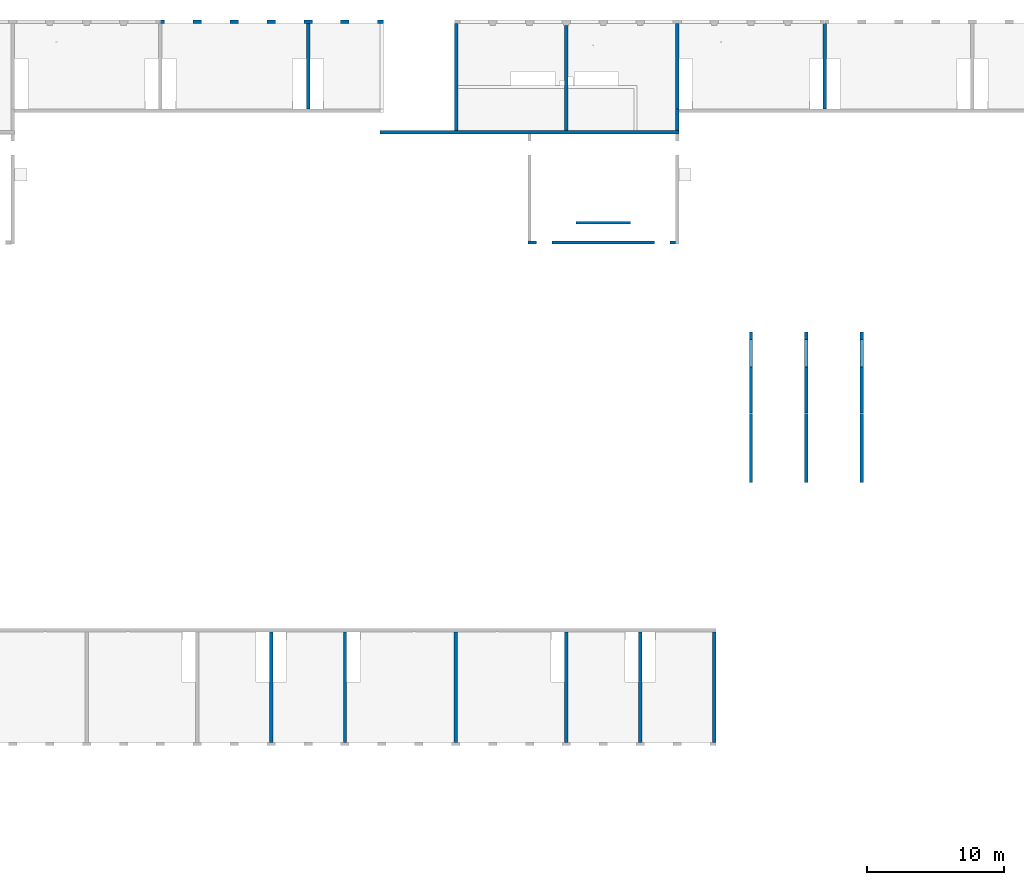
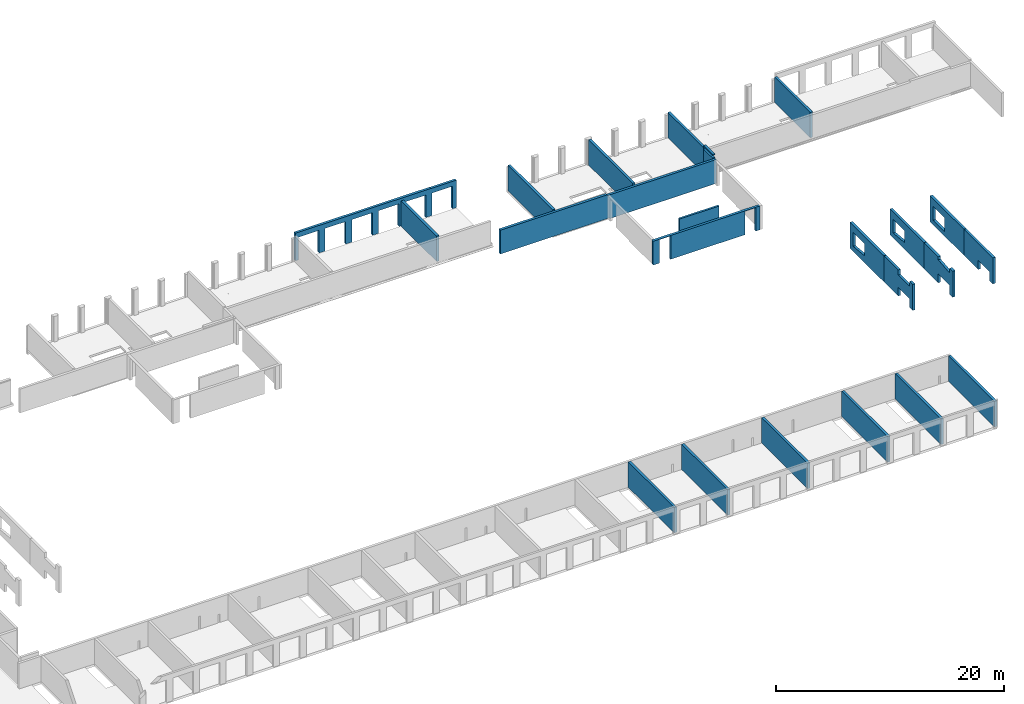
# One storey, part 7 of 12: 22 walls, 20 openings.
"""IFC2X3 building model written with IfcOpenShell, lengths in millimetres."""

import ifcopenshell
import ifcopenshell.guid

model = None  # the IFC model being written
_history = None  # IfcOwnerHistory: only IFC2X3 demands one
_inside = {}  # id of a spatial element -> (the spatial element, [elements in it])
_under = {}  # id of a project, library or spatial element -> (it, [spatial elements below it])
_declared = {}  # id of a project -> (the project, [libraries it declares])
_typed = {}  # id of a type object -> (the type object, [elements of that type])
_made_of = {}  # id of a material, layer set ... -> (it, [elements and type objects made of it])


def new_model(schema):
    """Start an empty IFC model of exactly this schema.

    Asked for "IFC4X3", IfcOpenShell would pick the latest addendum, in which some entities
    have other attributes; the version numbers below select the first issue.
    IFC2X3 requires an IfcOwnerHistory on every rooted entity: one is made here for all.
    """
    global model, _history
    if schema == "IFC4X3":
        model = ifcopenshell.file(schema_version=(4, 3, 0, 0))
    else:
        model = ifcopenshell.file(schema=schema)
    _inside.clear()
    _under.clear()
    _declared.clear()
    _typed.clear()
    _made_of.clear()
    _history = None
    if model.schema == "IFC2X3":
        org = make("IfcOrganization", Name="unknown")
        user = make(
            "IfcPersonAndOrganization",
            ThePerson=make("IfcPerson", FamilyName="unknown"),
            TheOrganization=org,
        )
        app = make(
            "IfcApplication",
            ApplicationDeveloper=org,
            Version="unknown",
            ApplicationFullName="unknown",
            ApplicationIdentifier="unknown",
        )
        _history = make(
            "IfcOwnerHistory",
            OwningUser=user,
            OwningApplication=app,
            ChangeAction="ADDED",
            CreationDate=0,
        )
    return model


def make(cls, **values):
    """One entity of the class cls with the attributes given. An attribute that is None is left unset."""
    return model.create_entity(
        cls, **{name: value for name, value in values.items() if value is not None}
    )


def entity(cls, *values):
    """Any entity or typed value of the class cls, its attributes in the order of the schema. None: left unset."""
    e = model.create_entity(cls)
    for i, value in enumerate(values):
        if value is not None:
            e[i] = value
    return e


def rooted(cls, **values):
    """An entity with a GlobalId (a new one), such as an element, a storey or a relation."""
    return make(cls, GlobalId=ifcopenshell.guid.new(), OwnerHistory=_history, **values)


def si_unit(unit_type, name, prefix=None):
    """IfcSIUnit, for example si_unit("LENGTHUNIT", "METRE", prefix="MILLI")."""
    return make("IfcSIUnit", UnitType=unit_type, Prefix=prefix, Name=name)


def converted_unit(unit_type, name, factor, base, dimensions=None, offset=None):
    """IfcConversionBasedUnit, such as the inch: factor (a typed value) times the base unit."""
    return make(
        "IfcConversionBasedUnit"
        if offset is None
        else "IfcConversionBasedUnitWithOffset",
        ConversionOffset=offset,
        Dimensions=None
        if dimensions is None
        else entity("IfcDimensionalExponents", *dimensions),
        UnitType=unit_type,
        Name=name,
        ConversionFactor=make(
            "IfcMeasureWithUnit", ValueComponent=factor, UnitComponent=base
        ),
    )


def derived_unit(unit_type, elements):
    """IfcDerivedUnit: a product of units, each with its exponent."""
    return make(
        "IfcDerivedUnit",
        Elements=[
            make("IfcDerivedUnitElement", Unit=unit, Exponent=power)
            for unit, power in elements
        ],
        UnitType=unit_type,
    )


def assignment(units):
    """IfcUnitAssignment: the units of a project."""
    return None if units is None else make("IfcUnitAssignment", Units=units)


def point(xyz):
    """IfcCartesianPoint."""
    return None if xyz is None else make("IfcCartesianPoint", Coordinates=xyz)


def direction(xyz):
    """IfcDirection."""
    return None if xyz is None else make("IfcDirection", DirectionRatios=xyz)


def frame(location, z_axis=None, x_axis=None):
    """IfcAxis2Placement3D, a coordinate frame: its origin and axes. An axis left out is left unset."""
    return make(
        "IfcAxis2Placement3D",
        Location=point(location),
        Axis=direction(z_axis),
        RefDirection=direction(x_axis),
    )


def frame_2d(location, x_axis=None):
    """IfcAxis2Placement2D, a coordinate frame in the plane: its origin and x axis."""
    return make(
        "IfcAxis2Placement2D", Location=point(location), RefDirection=direction(x_axis)
    )


def origin():
    """The frame at (0, 0, 0) with its axes left unset."""
    return frame((0.0, 0.0, 0.0))


def place(relative_to, where):
    """IfcLocalPlacement: puts the frame where relative to a parent placement (None: the world)."""
    return make(
        "IfcLocalPlacement", PlacementRelTo=relative_to, RelativePlacement=where
    )


def context(
    kind, dimensions, precision=None, world=None, true_north=None, identifier=None
):
    """IfcGeometricRepresentationContext, for example the 3D "Model" context."""
    return make(
        "IfcGeometricRepresentationContext",
        ContextIdentifier=identifier,
        ContextType=kind,
        CoordinateSpaceDimension=dimensions,
        Precision=precision,
        WorldCoordinateSystem=world,
        TrueNorth=true_north,
    )


def subcontext(parent, identifier, kind, view, scale=None):
    """IfcGeometricRepresentationSubContext, for example "Body" below "Model"."""
    return make(
        "IfcGeometricRepresentationSubContext",
        ContextIdentifier=identifier,
        ContextType=kind,
        ParentContext=parent,
        TargetScale=scale,
        TargetView=view,
    )


def project(units=None, contexts=None):
    """IfcProject with its units and contexts."""
    return rooted(
        "IfcProject",
        Name="project",
        RepresentationContexts=contexts,
        UnitsInContext=assignment(units),
    )


def spatial(cls, under=None, at=None, **own):
    """A site, building, storey or space (cls), placed at a placement, below another one or the project."""
    s = rooted(cls, ObjectPlacement=at, **own)
    if under is not None:
        _under.setdefault(under.id(), (under, []))[1].append(s)
    return s


def polyline(points):
    """IfcPolyline through the points."""
    return make("IfcPolyline", Points=[point(p) for p in points])


def profile(cls, at=None, kind="AREA", **sizes):
    """A parametric profile (cls). Its sizes go by their IFC names, for example OverallWidth=200.0."""
    return make(cls, ProfileType=kind, Position=at, **sizes)


def rectangle(**sizes):
    """IfcRectangleProfileDef."""
    return profile("IfcRectangleProfileDef", **sizes)


def outline(outer, holes=None, kind="AREA"):
    """IfcArbitraryClosedProfileDef: a profile drawn as a closed curve; with holes, ...WithVoids."""
    if holes is None:
        return make("IfcArbitraryClosedProfileDef", ProfileType=kind, OuterCurve=outer)
    return make(
        "IfcArbitraryProfileDefWithVoids",
        ProfileType=kind,
        OuterCurve=outer,
        InnerCurves=holes,
    )


def extrude(swept, where, along, depth):
    """IfcExtrudedAreaSolid: the profile swept, set in the frame where, extruded along a direction by depth."""
    return make(
        "IfcExtrudedAreaSolid",
        SweptArea=swept,
        Position=where,
        ExtrudedDirection=direction(along),
        Depth=depth,
    )


def clip(a, b, op="DIFFERENCE"):
    """IfcBooleanClippingResult: the solid a cut by the half space b."""
    return make(
        "IfcBooleanClippingResult", Operator=op, FirstOperand=a, SecondOperand=b
    )


def bounded_halfspace(plane, agree, where, boundary):
    """IfcPolygonalBoundedHalfSpace: a half space limited to a polygon's prism."""
    return make(
        "IfcPolygonalBoundedHalfSpace",
        BaseSurface=make("IfcPlane", Position=plane),
        AgreementFlag=agree,
        Position=where,
        PolygonalBoundary=boundary,
    )


def shape(context_of_items, identifier, shape_type, items):
    """IfcShapeRepresentation: the items that make up one representation, for example the "Body"."""
    return make(
        "IfcShapeRepresentation",
        ContextOfItems=context_of_items,
        RepresentationIdentifier=identifier,
        RepresentationType=shape_type,
        Items=items,
    )


def material(Name=None, Category=None):
    """IfcMaterial."""
    return make("IfcMaterial", Name=Name, Category=Category)


def layer(
    of_material, thickness, ventilated=None, Name=None, Category=None, Priority=None
):
    """IfcMaterialLayer: one layer of a wall or slab, of a material (None: an air gap)."""
    return make(
        "IfcMaterialLayer",
        Material=of_material,
        LayerThickness=thickness,
        IsVentilated=ventilated,
        Name=Name,
        Category=Category,
        Priority=Priority,
    )


def layer_set(layers, Name=None):
    """IfcMaterialLayerSet."""
    return make("IfcMaterialLayerSet", MaterialLayers=layers, LayerSetName=Name)


def layer_usage(for_layer_set, set_direction, sense, offset, extent=None):
    """IfcMaterialLayerSetUsage: how a layer set lies in its element."""
    return make(
        "IfcMaterialLayerSetUsage",
        ForLayerSet=for_layer_set,
        LayerSetDirection=set_direction,
        DirectionSense=sense,
        OffsetFromReferenceLine=offset,
        ReferenceExtent=extent,
    )


def made_of(thing, what):
    """Note that an element or type object is made of a material, layer set ...; save() writes the relation."""
    if what is not None:
        _made_of.setdefault(what.id(), (what, []))[1].append(thing)
    return thing


def type_object(cls, material=None, **own):
    """A type object (cls), such as IfcWallType, which elements share."""
    return made_of(rooted(cls, **own), material)


def element(
    cls,
    number,
    at=None,
    inside=None,
    cuts=None,
    type_object=None,
    material=None,
    context=None,
    identifier="Body",
    shape_type=None,
    held_by="IfcProductDefinitionShape",
    body=None,
    shapes=None,
    **own,
):
    """One element of the class cls, such as IfcWall. Its Tag is "e" and its number.

    at: its placement. inside: the storey or other place that contains it. cuts: it is an
    opening in that element (IfcRelVoidsElement). A single representation is given by context,
    identifier, shape_type and body (its items); several are given by shapes. held_by: the class
    of the entity that holds the representations. save() writes the other relations.
    """
    e = rooted(cls, Tag="e%d" % number, ObjectPlacement=at, **own)
    if body is not None:
        shapes = [shape(context, identifier, shape_type, body)]
    if shapes is not None:
        e.Representation = make(held_by, Representations=shapes)
    if inside is not None:
        _inside.setdefault(inside.id(), (inside, []))[1].append(e)
    if cuts is not None:
        rooted(
            "IfcRelVoidsElement", RelatingBuildingElement=cuts, RelatedOpeningElement=e
        )
    if type_object is not None:
        _typed.setdefault(type_object.id(), (type_object, []))[1].append(e)
    return made_of(e, material)


def aggregate(whole, parts):
    """IfcRelAggregates: a whole, such as a stair, and the parts it consists of."""
    return rooted("IfcRelAggregates", RelatingObject=whole, RelatedObjects=parts)


def save(model, path):
    """Write the relations noted so far, then the file.

    IfcRelAggregates (storeys below a building ...), IfcRelContainedInSpatialStructure (elements
    in a storey), IfcRelDefinesByType, IfcRelAssociatesMaterial and IfcRelDeclares: one each for
    every whole, place, type object, material and project.
    """
    for whole, parts in _under.values():
        aggregate(whole, parts)
    for where, things in _inside.values():
        rooted(
            "IfcRelContainedInSpatialStructure",
            RelatedElements=things,
            RelatingStructure=where,
        )
    for kind, things in _typed.values():
        rooted("IfcRelDefinesByType", RelatedObjects=things, RelatingType=kind)
    for what, things in _made_of.values():
        rooted("IfcRelAssociatesMaterial", RelatedObjects=things, RelatingMaterial=what)
    for by, libraries in _declared.values():
        rooted("IfcRelDeclares", RelatingContext=by, RelatedDefinitions=libraries)
    model.write(path)


model = new_model("IFC2X3")

# Units and contexts
model_context = context("Model", 3, precision=0.01, world=origin(), true_north=direction((6.12303176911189e-17, 1.0)))
body_context = subcontext(model_context, "Body", "Model", "MODEL_VIEW")
ifc_project = project(units=[si_unit("LENGTHUNIT", "METRE", prefix="MILLI"), si_unit("AREAUNIT", "SQUARE_METRE"), si_unit("VOLUMEUNIT", "CUBIC_METRE"), converted_unit("PLANEANGLEUNIT", "DEGREE", entity("IfcRatioMeasure", 0.0174532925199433), si_unit("PLANEANGLEUNIT", "RADIAN"), dimensions=[0, 0, 0, 0, 0, 0, 0]), si_unit("MASSUNIT", "GRAM", prefix="KILO"), derived_unit("MASSDENSITYUNIT", [(si_unit("MASSUNIT", "GRAM", prefix="KILO"), 1), (si_unit("LENGTHUNIT", "METRE"), -3)]), si_unit("TIMEUNIT", "SECOND"), si_unit("FREQUENCYUNIT", "HERTZ"), si_unit("THERMODYNAMICTEMPERATUREUNIT", "DEGREE_CELSIUS"), derived_unit("THERMALTRANSMITTANCEUNIT", [(si_unit("MASSUNIT", "GRAM", prefix="KILO"), 1), (si_unit("THERMODYNAMICTEMPERATUREUNIT", "KELVIN"), -1), (si_unit("TIMEUNIT", "SECOND"), -3)]), derived_unit("VOLUMETRICFLOWRATEUNIT", [(si_unit("LENGTHUNIT", "METRE"), 3), (si_unit("TIMEUNIT", "SECOND"), -1)]), si_unit("ELECTRICCURRENTUNIT", "AMPERE"), si_unit("ELECTRICVOLTAGEUNIT", "VOLT"), si_unit("POWERUNIT", "WATT"), si_unit("FORCEUNIT", "NEWTON", prefix="KILO"), si_unit("ILLUMINANCEUNIT", "LUX"), si_unit("LUMINOUSFLUXUNIT", "LUMEN"), si_unit("LUMINOUSINTENSITYUNIT", "CANDELA"), derived_unit("USERDEFINED", [(si_unit("MASSUNIT", "GRAM", prefix="KILO"), -1), (si_unit("LENGTHUNIT", "METRE"), -2), (si_unit("TIMEUNIT", "SECOND"), 3), (si_unit("LUMINOUSFLUXUNIT", "LUMEN"), 1)]), derived_unit("LINEARVELOCITYUNIT", [(si_unit("LENGTHUNIT", "METRE"), 1), (si_unit("TIMEUNIT", "SECOND"), -1)]), si_unit("PRESSUREUNIT", "PASCAL"), derived_unit("USERDEFINED", [(si_unit("LENGTHUNIT", "METRE"), -2), (si_unit("MASSUNIT", "GRAM", prefix="KILO"), 1), (si_unit("TIMEUNIT", "SECOND"), -2)])], contexts=[model_context])

# Site, building, storey
site_placement = place(None, origin())
site = spatial("IfcSite", under=ifc_project, at=site_placement, Name="Default", CompositionType="ELEMENT")
building_placement = place(site_placement, origin())
building = spatial("IfcBuilding", under=site, at=building_placement, Name="niet gebruiken", CompositionType="ELEMENT")
storey_placement = place(building_placement, frame((0.0, 0.0, 6660.0)))
storey = spatial("IfcBuildingStorey", under=building, at=storey_placement, Name="02 tweede verdieping", CompositionType="ELEMENT", Elevation=6660.00000000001)

# Walls
ifc_material_1 = material(Name="NLRS_f2_beton ihwg")
ifc_layer_1 = layer(ifc_material_1, 250.0)
ifc_layer_set_1 = layer_set([ifc_layer_1], Name="Basic Wall:NLRS_22.21_WA_beton ihwg d=250_gen")
ifc_layer_usage_1 = layer_usage(ifc_layer_set_1, "AXIS2", "NEGATIVE", 125.0)
wall_type_1 = type_object("IfcWallType", Name="Basic Wall:NLRS_22.21_WA_beton ihwg d=250_gen", PredefinedType="STANDARD", material=ifc_layer_set_1)
wall_1_placement = place(storey_placement, frame((67500.0, 8496.0, -90.0), z_axis=(0.0, 0.0, 1.0), x_axis=(0.0, -1.0, 0.0)))
element("IfcWallStandardCase", 1, at=wall_1_placement, inside=storey, type_object=wall_type_1, material=ifc_layer_usage_1, Name="Basic Wall:NLRS_22.21_WA_beton ihwg d=250_gen", ObjectType="Basic Wall:NLRS_22.21_WA_beton ihwg d=250_gen", context=body_context, shape_type="SweptSolid", body=[
    extrude(rectangle(XDim=8075.99999999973, YDim=249.999999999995, at=frame_2d((4037.99999999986, 0.0), x_axis=(-1.0, 0.0))), origin(), (0.0, 0.0, 1.0), 2720.00000000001),
])
ifc_layer_usage_2 = layer_usage(ifc_layer_set_1, "AXIS2", "NEGATIVE", 125.0)
wall_2_placement = place(storey_placement, frame((72900.0, 8496.0, -90.0), z_axis=(0.0, 0.0, 1.0), x_axis=(0.0, -1.0, 0.0)))
element("IfcWallStandardCase", 2, at=wall_2_placement, inside=storey, type_object=wall_type_1, material=ifc_layer_usage_2, Name="Basic Wall:NLRS_22.21_WA_beton ihwg d=250_gen", ObjectType="Basic Wall:NLRS_22.21_WA_beton ihwg d=250_gen", context=body_context, shape_type="SweptSolid", body=[
    extrude(rectangle(XDim=8075.99999999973, YDim=249.999999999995, at=frame_2d((4037.99999999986, 0.0), x_axis=(-1.0, 0.0))), origin(), (0.0, 0.0, 1.0), 2720.00000000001),
])
ifc_layer_usage_3 = layer_usage(ifc_layer_set_1, "AXIS2", "NEGATIVE", 125.0)
wall_3_placement = place(storey_placement, frame((81000.0, 8496.0, -90.0), z_axis=(0.0, 0.0, 1.0), x_axis=(0.0, -1.0, 0.0)))
element("IfcWallStandardCase", 3, at=wall_3_placement, inside=storey, type_object=wall_type_1, material=ifc_layer_usage_3, Name="Basic Wall:NLRS_22.21_WA_beton ihwg d=250_gen", ObjectType="Basic Wall:NLRS_22.21_WA_beton ihwg d=250_gen", context=body_context, shape_type="SweptSolid", body=[
    extrude(rectangle(XDim=8075.99999999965, YDim=250.000000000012, at=frame_2d((4037.99999999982, 0.0), x_axis=(-1.0, 0.0))), origin(), (0.0, 0.0, 1.0), 2720.00000000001),
])
ifc_layer_usage_4 = layer_usage(ifc_layer_set_1, "AXIS2", "NEGATIVE", 125.0)
wall_4_placement = place(storey_placement, frame((89100.0, 8496.0, -90.0), z_axis=(0.0, 0.0, 1.0), x_axis=(0.0, -1.0, 0.0)))
element("IfcWallStandardCase", 4, at=wall_4_placement, inside=storey, type_object=wall_type_1, material=ifc_layer_usage_4, Name="Basic Wall:NLRS_22.21_WA_beton ihwg d=250_gen", ObjectType="Basic Wall:NLRS_22.21_WA_beton ihwg d=250_gen", context=body_context, shape_type="SweptSolid", body=[
    extrude(rectangle(XDim=8075.99999999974, YDim=250.000000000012, at=frame_2d((4037.99999999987, 0.0), x_axis=(-1.0, 0.0))), origin(), (0.0, 0.0, 1.0), 2720.00000000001),
])
ifc_layer_usage_5 = layer_usage(ifc_layer_set_1, "AXIS2", "NEGATIVE", 125.0)
wall_5_placement = place(storey_placement, frame((94500.0, 8496.0, -90.0), z_axis=(0.0, 0.0, 1.0), x_axis=(0.0, -1.0, 0.0)))
element("IfcWallStandardCase", 5, at=wall_5_placement, inside=storey, type_object=wall_type_1, material=ifc_layer_usage_5, Name="Basic Wall:NLRS_22.21_WA_beton ihwg d=250_gen", ObjectType="Basic Wall:NLRS_22.21_WA_beton ihwg d=250_gen", context=body_context, shape_type="SweptSolid", body=[
    extrude(rectangle(XDim=8075.99999999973, YDim=250.000000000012, at=frame_2d((4037.99999999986, 0.0), x_axis=(-1.0, 0.0))), origin(), (0.0, 0.0, 1.0), 2720.00000000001),
])
ifc_layer_usage_6 = layer_usage(ifc_layer_set_1, "AXIS2", "NEGATIVE", 125.0)
wall_6_placement = place(storey_placement, frame((99900.0, 8496.0, -90.0), z_axis=(0.0, 0.0, 1.0), x_axis=(0.0, -1.0, 0.0)))
element("IfcWallStandardCase", 6, at=wall_6_placement, inside=storey, type_object=wall_type_1, material=ifc_layer_usage_6, Name="Basic Wall:NLRS_22.21_WA_beton ihwg d=250_gen", ObjectType="Basic Wall:NLRS_22.21_WA_beton ihwg d=250_gen", context=body_context, shape_type="SweptSolid", body=[
    extrude(rectangle(XDim=8075.99999999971, YDim=250.000000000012, at=frame_2d((4037.99999999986, 0.0), x_axis=(-1.0, 0.0))), origin(), (0.0, 0.0, 1.0), 2720.00000000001),
])
ifc_layer_usage_7 = layer_usage(ifc_layer_set_1, "AXIS2", "NEGATIVE", 125.0)
wall_7_placement = place(storey_placement, frame((70200.0, 46746.0, -90.0), z_axis=(0.0, 0.0, 1.0), x_axis=(0.0, 1.0, 0.0)))
element("IfcWallStandardCase", 7, at=wall_7_placement, inside=storey, type_object=wall_type_1, material=ifc_layer_usage_7, Name="Basic Wall:NLRS_22.21_WA_beton ihwg d=250_gen", ObjectType="Basic Wall:NLRS_22.21_WA_beton ihwg d=250_gen", context=body_context, shape_type="SweptSolid", body=[
    extrude(rectangle(XDim=6239.99999999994, YDim=249.999999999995, at=frame_2d((3119.99999999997, 1.06581410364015e-12), x_axis=(-1.0, 0.0))), origin(), (0.0, 0.0, 1.0), 2720.00000000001),
])
ifc_layer_usage_8 = layer_usage(ifc_layer_set_1, "AXIS2", "NEGATIVE", 125.0)
wall_8_placement = place(storey_placement, frame((108000.0, 46746.0, -90.0), z_axis=(0.0, 0.0, 1.0), x_axis=(0.0, 1.0, 0.0)))
element("IfcWallStandardCase", 8, at=wall_8_placement, inside=storey, type_object=wall_type_1, material=ifc_layer_usage_8, Name="Basic Wall:NLRS_22.21_WA_beton ihwg d=250_gen", ObjectType="Basic Wall:NLRS_22.21_WA_beton ihwg d=250_gen", context=body_context, shape_type="SweptSolid", body=[
    extrude(rectangle(XDim=6239.99999999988, YDim=250.000000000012, at=frame_2d((3119.99999999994, -3.26849658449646e-12), x_axis=(-1.0, 0.0))), origin(), (0.0, 0.0, 1.0), 2720.00000000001),
])
ifc_layer_usage_9 = layer_usage(ifc_layer_set_1, "AXIS2", "NEGATIVE", 125.0)
wall_9_placement = place(storey_placement, frame((89100.0, 45156.0, -90.0), z_axis=(0.0, 0.0, 1.0), x_axis=(0.0, 1.0, 0.0)))
element("IfcWallStandardCase", 9, at=wall_9_placement, inside=storey, type_object=wall_type_1, material=ifc_layer_usage_9, Name="Basic Wall:NLRS_22.21_WA_beton ihwg d=250_gen", ObjectType="Basic Wall:NLRS_22.21_WA_beton ihwg d=250_gen", context=body_context, shape_type="SweptSolid", body=[
    extrude(rectangle(XDim=7690.00000000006, YDim=250.000000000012, at=frame_2d((3845.00000000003, -2.01794136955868e-12), x_axis=(-1.0, 0.0))), origin(), (0.0, 0.0, 1.0), 2720.00000000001),
])
ifc_layer_usage_10 = layer_usage(ifc_layer_set_1, "AXIS2", "NEGATIVE", 125.0)
wall_10_placement = place(storey_placement, frame((81025.0, 45156.0, -90.0), z_axis=(0.0, 0.0, 1.0), x_axis=(0.0, 1.0, 0.0)))
element("IfcWallStandardCase", 10, at=wall_10_placement, inside=storey, type_object=wall_type_1, material=ifc_layer_usage_10, Name="Basic Wall:NLRS_22.21_WA_beton ihwg d=250_gen", ObjectType="Basic Wall:NLRS_22.21_WA_beton ihwg d=250_gen", context=body_context, shape_type="SweptSolid", body=[
    extrude(rectangle(XDim=7849.99999999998, YDim=250.000000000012, at=frame_2d((3924.99999999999, -1.86872739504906e-12), x_axis=(-1.0, 0.0))), origin(), (0.0, 0.0, 1.0), 2720.00000000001),
])

# Wall, openings
ifc_layer_usage_11 = layer_usage(ifc_layer_set_1, "AXIS2", "NEGATIVE", 125.0)
wall_11_placement = place(storey_placement, frame((97325.0, 45031.0, -140.0), z_axis=(0.0, 0.0, 1.0), x_axis=(-1.0, 0.0, 0.0)))
wall_11 = element("IfcWallStandardCase", 11, at=wall_11_placement, inside=storey, type_object=wall_type_1, material=ifc_layer_usage_11, Name="Basic Wall:NLRS_22.21_WA_beton ihwg d=250_gen", ObjectType="Basic Wall:NLRS_22.21_WA_beton ihwg d=250_gen", context=body_context, shape_type="Clipping", body=[
    clip(clip(clip(clip(extrude(rectangle(XDim=21874.9999999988, YDim=249.999999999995, at=frame_2d((10937.4999999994, -3.90798504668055e-13), x_axis=(-1.0, 0.0))), origin(), (0.0, 0.0, 1.0), 2640.00000000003), bounded_halfspace(frame((10800.0, 125.0, 90.0), z_axis=(-1.0, 0.0, 0.0), x_axis=(0.0, 0.0, 1.0)), True, frame((10800.0, 125.0, 90.0), z_axis=(-1.0, 0.0, 0.0), x_axis=(0.0, 0.0, 1.0)), polyline([(0.0, 0.0), (-90.0, 0.0), (-90.0, -250.0), (0.0, -250.0), (0.0, 0.0)]))), bounded_halfspace(frame((21875.0, -125.0, 2640.0), z_axis=(0.0, 0.0, -1.0), x_axis=(1.0, 0.0, 0.0)), True, frame((21875.0, -125.0, 2640.0), z_axis=(0.0, 0.0, -1.0), x_axis=(1.0, 0.0, 0.0)), polyline([(0.0, 0.0), (-20.0, 0.0), (-10824.999849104, 0.0), (-10824.999849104, -250.0), (0.0, -250.0), (0.0, 0.0)]))), bounded_halfspace(frame((11050.0001508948, -125.0, 2550.0), z_axis=(0.0, 0.0, -1.0), x_axis=(0.0, -1.0, 0.0)), True, frame((11050.0001508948, -125.0, 2550.0), z_axis=(0.0, 0.0, -1.0), x_axis=(0.0, -1.0, 0.0)), polyline([(0.0, 0.0), (0.0, 11050.0001508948), (-250.0, 11050.0001508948), (-250.0, 10800.0001508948), (-250.0, 250.000150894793), (-250.0, 0.0), (0.0, 0.0)]))), bounded_halfspace(frame((11050.0001508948, 125.0, 2550.0), z_axis=(1.0, 0.0, 0.0), x_axis=(0.0, 0.0, 1.0)), True, frame((11050.0001508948, 125.0, 2550.0), z_axis=(1.0, 0.0, 0.0), x_axis=(0.0, 0.0, 1.0)), polyline([(0.0, 0.0), (90.0, 0.0), (90.0, 250.0), (0.0, 250.0), (0.0, 0.0)]))),
])
opening_1_placement = place(wall_11_placement, origin())
element("IfcOpeningElement", 12, at=opening_1_placement, cuts=wall_11, Name="Basic Wall:NLRS_22.21_WA_beton ihwg d=250_gen", ObjectType="Opening", context=body_context, shape_type="SweptSolid", body=[
    extrude(rectangle(XDim=90.0000000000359, YDim=10824.9999999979, at=frame_2d((-4.09272615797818e-12, 0.0), x_axis=(0.0, 1.0))), frame((16462.4999999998, 125.0, 45.0), z_axis=(0.0, -1.0, 0.0), x_axis=(1.0, 0.0, 0.0)), (0.0, 0.0, 1.0), 250.0),
])
opening_2_placement = place(wall_11_placement, origin())
element("IfcOpeningElement", 13, at=opening_2_placement, cuts=wall_11, Name="Basic Wall:NLRS_22.21_WA_beton ihwg d=250_gen", ObjectType="Opening", context=body_context, shape_type="SweptSolid", body=[
    extrude(rectangle(XDim=90.0000000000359, YDim=10925.0000000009, at=frame_2d((-8.64019966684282e-12, 0.0), x_axis=(0.0, 1.0))), frame((5587.50000000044, 125.0, 2845.0), z_axis=(0.0, -1.0, 0.0), x_axis=(-1.0, 0.0, 0.0)), (0.0, 0.0, 1.0), 250.0),
])

ifc_layer_usage_12 = layer_usage(ifc_layer_set_1, "AXIS2", "NEGATIVE", 125.0)
wall_12_placement = place(storey_placement, frame((97075.0, 36981.0, -140.0), z_axis=(0.0, 0.0, 1.0), x_axis=(-1.0, 0.0, 0.0)))
wall_12 = element("IfcWallStandardCase", 14, at=wall_12_placement, inside=storey, type_object=wall_type_1, material=ifc_layer_usage_12, Name="Basic Wall:NLRS_22.21_WA_beton ihwg d=250_gen", ObjectType="Basic Wall:NLRS_22.21_WA_beton ihwg d=250_gen", context=body_context, shape_type="Clipping", body=[
    clip(extrude(rectangle(XDim=10800.0, YDim=250.000000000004, at=frame_2d((5399.99999999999, -5.47117906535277e-13), x_axis=(-1.0, 0.0))), origin(), (0.0, 0.0, 1.0), 2549.99999999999), bounded_halfspace(frame((0.0, -125.0, 2550.0), z_axis=(0.0, 0.0, -1.0), x_axis=(0.0, -1.0, 0.0)), True, frame((0.0, -125.0, 2550.0), z_axis=(0.0, 0.0, -1.0), x_axis=(0.0, -1.0, 0.0)), polyline([(0.0, 0.0), (-250.0, 0.0), (-250.0, -10800.0), (0.0, -10800.0), (0.0, -10550.0), (0.0, -10250.0), (0.0, -7175.00021677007), (0.0, -7150.00021677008), (0.0, -3375.00021676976), (0.0, -3350.00021676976), (0.0, 0.0)]))),
])
opening_3_placement = place(wall_12_placement, origin())
element("IfcOpeningElement", 15, at=opening_3_placement, cuts=wall_12, Name="Basic Wall:NLRS_22.21_WA_beton ihwg d=250_gen", ObjectType="Opening", context=body_context, shape_type="SweptSolid", body=[
    extrude(rectangle(XDim=2495.0, YDim=1130.0, at=frame_2d((5.6843418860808e-13, -8.64019966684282e-12), x_axis=(1.0, 0.0))), frame((9585.0, -1649.0, 1247.5), z_axis=(0.0, 1.0, 0.0), x_axis=(0.0, 0.0, 1.0)), (0.0, 0.0, 1.0), 3048.0),
])
opening_4_placement = place(wall_12_placement, origin())
element("IfcOpeningElement", 16, at=opening_4_placement, cuts=wall_12, Name="Basic Wall:NLRS_22.21_WA_beton ihwg d=250_gen", ObjectType="Opening", context=body_context, shape_type="SweptSolid", body=[
    extrude(rectangle(XDim=2495.0, YDim=1130.0, at=frame_2d((5.6843418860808e-13, -8.64019966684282e-12), x_axis=(1.0, 0.0))), frame((965.0, -1649.0, 1247.5), z_axis=(0.0, 1.0, 0.0), x_axis=(0.0, 0.0, 1.0)), (0.0, 0.0, 1.0), 3048.0),
])

# Wall
ifc_layer_usage_13 = layer_usage(ifc_layer_set_1, "AXIS2", "NEGATIVE", 125.0)
wall_13_placement = place(storey_placement, frame((97200.0, 46746.0, -90.0), z_axis=(0.0, 0.0, 1.0), x_axis=(0.0, 1.0, 0.0)))
element("IfcWallStandardCase", 17, at=wall_13_placement, inside=storey, type_object=wall_type_1, material=ifc_layer_usage_13, Name="Basic Wall:NLRS_22.21_WA_beton ihwg d=250_gen", ObjectType="Basic Wall:NLRS_22.21_WA_beton ihwg d=250_gen", context=body_context, shape_type="Clipping", body=[
    clip(extrude(rectangle(XDim=6259.99999999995, YDim=250.000000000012, at=frame_2d((3129.99999999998, -3.24718030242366e-12), x_axis=(-1.0, 0.0))), origin(), (0.0, 0.0, 1.0), 2720.00000000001), bounded_halfspace(frame((3680.0, -125.0, 2720.0), z_axis=(0.0, 0.0, -1.0), x_axis=(-1.0, 0.0, 0.0)), True, frame((3680.0, -125.0, 2720.0), z_axis=(0.0, 0.0, -1.0), x_axis=(-1.0, 0.0, 0.0)), polyline([(0.0, 0.0), (3680.0, 0.0), (3680.0, 230.0), (3680.0, 250.0), (-2580.0, 250.0), (-2580.0, 230.0), (-2580.0, 125.0), (-2580.0, 20.0), (-2580.0, 0.0), (0.0, 0.0)]))),
])

# Wall, opening
ifc_layer_usage_14 = layer_usage(ifc_layer_set_1, "AXIS2", "NEGATIVE", 125.0)
wall_14_placement = place(storey_placement, frame((97200.0, 45156.0, -90.0), z_axis=(0.0, 0.0, 1.0), x_axis=(0.0, 1.0, 0.0)))
wall_14 = element("IfcWallStandardCase", 18, at=wall_14_placement, inside=storey, type_object=wall_type_1, material=ifc_layer_usage_14, Name="Basic Wall:NLRS_22.21_WA_beton ihwg d=250_gen", ObjectType="Basic Wall:NLRS_22.21_WA_beton ihwg d=250_gen", context=body_context, shape_type="SweptSolid", body=[
    extrude(rectangle(XDim=1590.00000000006, YDim=250.000000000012, at=frame_2d((795.000000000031, 1.37845290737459e-12), x_axis=(-1.0, 0.0))), origin(), (0.0, 0.0, 1.0), 2970.00000000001),
])
opening_5_placement = place(storey_placement, frame((97200.0, 45156.0, -90.0), z_axis=(0.0, 0.0, 1.0), x_axis=(0.0, 1.0, 0.0)))
element("IfcOpeningElement", 19, at=opening_5_placement, cuts=wall_14, Name="Basic Wall:NLRS_22.21_WA_beton ihwg d=250_gen:1", ObjectType="Opening", context=body_context, shape_type="SweptSolid", body=[
    extrude(rectangle(XDim=1590.00000000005, YDim=249.999999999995, at=frame_2d((114.999999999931, 38.3333333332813), x_axis=(1.0, 0.0))), frame((680.0, -38.33333333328, 2590.0)), (0.0, 0.0, 1.0), 249.999999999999),
])

# Wall, openings
ifc_material_2 = material(Name="NLRS_f2_beton prefab")
ifc_layer_2 = layer(ifc_material_2, 250.0)
ifc_layer_set_2 = layer_set([ifc_layer_2], Name="Basic Wall:NLRS_21.21_WA_beton prefab d=250_gen")
ifc_layer_usage_15 = layer_usage(ifc_layer_set_2, "AXIS2", "NEGATIVE", 125.0)
wall_type_2 = type_object("IfcWallType", Name="Basic Wall:NLRS_21.21_WA_beton prefab d=250_gen", PredefinedType="STANDARD", material=ifc_layer_set_2)
wall_15_placement = place(storey_placement, frame((59410.0, 53131.0, -70.0)))
wall_15 = element("IfcWallStandardCase", 20, at=wall_15_placement, inside=storey, type_object=wall_type_2, material=ifc_layer_usage_15, Name="Basic Wall:NLRS_21.21_WA_beton prefab d=250_gen", ObjectType="Basic Wall:NLRS_21.21_WA_beton prefab d=250_gen", context=body_context, shape_type="SweptSolid", body=[
    extrude(rectangle(XDim=16290.0000000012, YDim=249.999999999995, at=frame_2d((8145.00000000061, 6.89226453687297e-13), x_axis=(-1.0, 0.0))), origin(), (0.0, 0.0, 1.0), 2950.00000000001),
])
opening_6_placement = place(wall_15_placement, origin())
element("IfcOpeningElement", 21, at=opening_6_placement, cuts=wall_15, Name="Basic Wall:NLRS_21.21_WA_beton prefab d=250_gen", ObjectType="Opening", context=body_context, shape_type="SweptSolid", body=[
    extrude(rectangle(XDim=2440.0, YDim=2080.0, at=frame_2d((0.0, 4.32009983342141e-12), x_axis=(1.0, 0.0))), frame((1340.00096011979, -1649.0, 1200.0), z_axis=(0.0, 1.0, 0.0), x_axis=(0.0, 0.0, 1.0)), (0.0, 0.0, 1.0), 3048.0),
])
opening_7_placement = place(wall_15_placement, origin())
element("IfcOpeningElement", 22, at=opening_7_placement, cuts=wall_15, Name="Basic Wall:NLRS_21.21_WA_beton prefab d=250_gen", ObjectType="Opening", context=body_context, shape_type="SweptSolid", body=[
    extrude(rectangle(XDim=2440.0, YDim=2080.0, at=frame_2d((0.0, -4.32009983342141e-12), x_axis=(1.0, 0.0))), frame((4040.00096011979, -1649.0, 1200.0), z_axis=(0.0, 1.0, 0.0), x_axis=(0.0, 0.0, 1.0)), (0.0, 0.0, 1.0), 3048.0),
])
opening_8_placement = place(wall_15_placement, origin())
element("IfcOpeningElement", 23, at=opening_8_placement, cuts=wall_15, Name="Basic Wall:NLRS_21.21_WA_beton prefab d=250_gen", ObjectType="Opening", context=body_context, shape_type="SweptSolid", body=[
    extrude(rectangle(XDim=2440.0, YDim=2080.0, at=frame_2d((0.0, -4.32009983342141e-12), x_axis=(1.0, 0.0))), frame((6740.0009601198, -1649.0, 1200.0), z_axis=(0.0, 1.0, 0.0), x_axis=(0.0, 0.0, 1.0)), (0.0, 0.0, 1.0), 3048.0),
])
opening_9_placement = place(wall_15_placement, origin())
element("IfcOpeningElement", 24, at=opening_9_placement, cuts=wall_15, Name="Basic Wall:NLRS_21.21_WA_beton prefab d=250_gen", ObjectType="Opening", context=body_context, shape_type="SweptSolid", body=[
    extrude(rectangle(XDim=2440.0, YDim=2080.0, at=frame_2d((0.0, 4.32009983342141e-12), x_axis=(1.0, 0.0))), frame((9440.00096011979, -1649.0, 1200.0), z_axis=(0.0, 1.0, 0.0), x_axis=(0.0, 0.0, 1.0)), (0.0, 0.0, 1.0), 3048.0),
])
opening_10_placement = place(wall_15_placement, origin())
element("IfcOpeningElement", 25, at=opening_10_placement, cuts=wall_15, Name="Basic Wall:NLRS_21.21_WA_beton prefab d=250_gen", ObjectType="Opening", context=body_context, shape_type="SweptSolid", body=[
    extrude(rectangle(XDim=2440.0, YDim=2080.0, at=frame_2d((0.0, -4.32009983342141e-12), x_axis=(1.0, 0.0))), frame((12140.0009601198, -1649.0, 1200.0), z_axis=(0.0, 1.0, 0.0), x_axis=(0.0, 0.0, 1.0)), (0.0, 0.0, 1.0), 3048.0),
])
opening_11_placement = place(wall_15_placement, origin())
element("IfcOpeningElement", 26, at=opening_11_placement, cuts=wall_15, Name="Basic Wall:NLRS_21.21_WA_beton prefab d=250_gen", ObjectType="Opening", context=body_context, shape_type="SweptSolid", body=[
    extrude(rectangle(XDim=2440.0, YDim=2080.0, at=frame_2d((0.0, 4.32009983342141e-12), x_axis=(1.0, 0.0))), frame((14840.0009601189, -1649.0, 1200.0), z_axis=(0.0, 1.0, 0.0), x_axis=(0.0, 0.0, 1.0)), (0.0, 0.0, 1.0), 3048.0),
])
opening_12_placement = place(wall_15_placement, origin())
element("IfcOpeningElement", 27, at=opening_12_placement, cuts=wall_15, Name="Basic Wall:NLRS_21.21_WA_beton prefab d=250_gen", ObjectType="Opening", context=body_context, shape_type="SweptSolid", body=[
    extrude(rectangle(XDim=19.99999999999, YDim=2595.00000000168, at=frame_2d((2.70716782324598e-12, 0.0), x_axis=(1.0, 0.0))), frame((14992.5000000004, 125.0, 2940.0), z_axis=(0.0, -1.0, 0.0), x_axis=(0.0, 0.0, 1.0)), (0.0, 0.0, 1.0), 250.0),
])

# Wall, opening
ifc_layer_3 = layer(ifc_material_2, 250.0)
ifc_layer_set_3 = layer_set([ifc_layer_3], Name="Basic Wall:NLRS_22.21_WA_beton prefab d=250_gen")
ifc_layer_usage_16 = layer_usage(ifc_layer_set_3, "AXIS2", "NEGATIVE", 125.0)
wall_type_3 = type_object("IfcWallType", Name="Basic Wall:NLRS_22.21_WA_beton prefab d=250_gen", PredefinedType="STANDARD", material=ifc_layer_set_3)
wall_16_placement = place(storey_placement, frame((102600.0, 30426.0, -100.0), z_axis=(0.0, 0.0, 1.0), x_axis=(0.0, -1.0, 0.0)))
wall_16 = element("IfcWallStandardCase", 28, at=wall_16_placement, inside=storey, type_object=wall_type_3, material=ifc_layer_usage_16, Name="Basic Wall:NLRS_22.21_WA_beton prefab d=250_gen", ObjectType="Basic Wall:NLRS_22.21_WA_beton prefab d=250_gen", context=body_context, shape_type="SweptSolid", body=[
    extrude(rectangle(XDim=5934.99999999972, YDim=250.000000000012, at=frame_2d((2967.49999999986, 0.0), x_axis=(-1.0, 0.0))), origin(), (0.0, 0.0, 1.0), 2780.0),
])
opening_13_placement = place(wall_16_placement, origin())
element("IfcOpeningElement", 29, at=opening_13_placement, cuts=wall_16, Name="Basic Wall:NLRS_22.21_WA_beton prefab d=250_gen", ObjectType="Opening", context=body_context, shape_type="SweptSolid", body=[
    extrude(outline(polyline([(-1000.0, -686.502487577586), (1000.0, -686.502487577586), (1000.0, 786.502487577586), (-1000.0, 586.502487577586), (-1000.0, -686.502487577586)])), frame((1550.0, 125.0, 1313.49751242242), z_axis=(0.0, -1.0, 0.0), x_axis=(-1.0, 0.0, 0.0)), (0.0, 0.0, 1.0), 250.0),
])

ifc_layer_usage_17 = layer_usage(ifc_layer_set_3, "AXIS2", "NEGATIVE", 125.0)
wall_17_placement = place(storey_placement, frame((106650.0, 30426.0, -100.0), z_axis=(0.0, 0.0, 1.0), x_axis=(0.0, -1.0, 0.0)))
wall_17 = element("IfcWallStandardCase", 30, at=wall_17_placement, inside=storey, type_object=wall_type_3, material=ifc_layer_usage_17, Name="Basic Wall:NLRS_22.21_WA_beton prefab d=250_gen", ObjectType="Basic Wall:NLRS_22.21_WA_beton prefab d=250_gen", context=body_context, shape_type="SweptSolid", body=[
    extrude(rectangle(XDim=5934.99999999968, YDim=250.000000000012, at=frame_2d((2967.49999999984, 0.0), x_axis=(-1.0, 0.0))), origin(), (0.0, 0.0, 1.0), 2780.0),
])
opening_14_placement = place(wall_17_placement, origin())
element("IfcOpeningElement", 31, at=opening_14_placement, cuts=wall_17, Name="Basic Wall:NLRS_22.21_WA_beton prefab d=250_gen", ObjectType="Opening", context=body_context, shape_type="SweptSolid", body=[
    extrude(outline(polyline([(-1073.29711274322, -683.095506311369), (936.678011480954, -683.095506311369), (1063.34674084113, 583.59178729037), (-926.72763957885, 782.599225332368), (-1073.29711274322, -683.095506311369)])), frame((1550.0, 125.0, 1313.49751242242), z_axis=(0.0, -1.0, 0.0), x_axis=(0.995037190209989, 0.0, 0.0995037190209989)), (0.0, 0.0, 1.0), 250.0),
])

ifc_layer_usage_18 = layer_usage(ifc_layer_set_3, "AXIS2", "NEGATIVE", 125.0)
wall_18_placement = place(storey_placement, frame((110700.0, 30426.0, -100.0), z_axis=(0.0, 0.0, 1.0), x_axis=(0.0, -1.0, 0.0)))
wall_18 = element("IfcWallStandardCase", 32, at=wall_18_placement, inside=storey, type_object=wall_type_3, material=ifc_layer_usage_18, Name="Basic Wall:NLRS_22.21_WA_beton prefab d=250_gen", ObjectType="Basic Wall:NLRS_22.21_WA_beton prefab d=250_gen", context=body_context, shape_type="SweptSolid", body=[
    extrude(rectangle(XDim=5934.99999999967, YDim=250.000000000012, at=frame_2d((2967.49999999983, 0.0), x_axis=(-1.0, 0.0))), origin(), (0.0, 0.0, 1.0), 2780.0),
])
opening_15_placement = place(wall_18_placement, origin())
element("IfcOpeningElement", 33, at=opening_15_placement, cuts=wall_18, Name="Basic Wall:NLRS_22.21_WA_beton prefab d=250_gen", ObjectType="Opening", context=body_context, shape_type="SweptSolid", body=[
    extrude(rectangle(XDim=1500.0, YDim=2000.0, at=frame_2d((2.1600499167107e-12, -5.6843418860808e-13), x_axis=(0.0, 1.0))), frame((1550.0, -1399.0, 1230.0), z_axis=(0.0, 1.0, 0.0), x_axis=(-1.0, 0.0, 0.0)), (0.0, 0.0, 1.0), 3048.0),
])

# Wall, openings
ifc_layer_usage_19 = layer_usage(ifc_layer_set_3, "AXIS2", "NEGATIVE", 125.0)
wall_19_placement = place(storey_placement, frame((102600.0, 24471.0, -100.0), z_axis=(0.0, 0.0, 1.0), x_axis=(0.0, -1.0, 0.0)))
wall_19 = element("IfcWallStandardCase", 34, at=wall_19_placement, inside=storey, type_object=wall_type_3, material=ifc_layer_usage_19, Name="Basic Wall:NLRS_22.21_WA_beton prefab d=250_gen", ObjectType="Basic Wall:NLRS_22.21_WA_beton prefab d=250_gen", context=body_context, shape_type="SweptSolid", body=[
    extrude(rectangle(XDim=5045.00000000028, YDim=250.000000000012, at=frame_2d((2522.50000000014, 0.0), x_axis=(-1.0, 0.0))), origin(), (0.0, 0.0, 1.0), 2780.0),
])
opening_16_placement = place(wall_19_placement, origin())
element("IfcOpeningElement", 35, at=opening_16_placement, cuts=wall_19, Name="Basic Wall:NLRS_22.21_WA_beton prefab d=250_gen", ObjectType="Opening", context=body_context, shape_type="SweptSolid", body=[
    extrude(rectangle(XDim=539.999999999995, YDim=2000.00000000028, at=frame_2d((2.1600499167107e-12, 5.40012479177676e-13), x_axis=(0.0, 1.0))), frame((3495.0, 125.0, 2510.0), z_axis=(0.0, -1.0, 0.0), x_axis=(-1.0, 0.0, 0.0)), (0.0, 0.0, 1.0), 250.0),
])
opening_17_placement = place(wall_19_placement, origin())
element("IfcOpeningElement", 36, at=opening_17_placement, cuts=wall_19, Name="Basic Wall:NLRS_22.21_WA_beton prefab d=250_gen", ObjectType="Opening", context=body_context, shape_type="SweptSolid", body=[
    extrude(rectangle(XDim=940.000000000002, YDim=2000.00000000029, at=frame_2d((2.1600499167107e-12, 5.40012479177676e-13), x_axis=(0.0, 1.0))), frame((3495.0, 125.0, 470.0), z_axis=(0.0, -1.0, 0.0), x_axis=(1.0, 0.0, 0.0)), (0.0, 0.0, 1.0), 250.0),
])

ifc_layer_usage_20 = layer_usage(ifc_layer_set_3, "AXIS2", "NEGATIVE", 125.0)
wall_20_placement = place(storey_placement, frame((106650.0, 24471.0, -100.0), z_axis=(0.0, 0.0, 1.0), x_axis=(0.0, -1.0, 0.0)))
wall_20 = element("IfcWallStandardCase", 37, at=wall_20_placement, inside=storey, type_object=wall_type_3, material=ifc_layer_usage_20, Name="Basic Wall:NLRS_22.21_WA_beton prefab d=250_gen", ObjectType="Basic Wall:NLRS_22.21_WA_beton prefab d=250_gen", context=body_context, shape_type="SweptSolid", body=[
    extrude(rectangle(XDim=5045.0000000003, YDim=250.000000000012, at=frame_2d((2522.50000000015, 0.0), x_axis=(-1.0, 0.0))), origin(), (0.0, 0.0, 1.0), 2780.0),
])
opening_18_placement = place(wall_20_placement, origin())
element("IfcOpeningElement", 38, at=opening_18_placement, cuts=wall_20, Name="Basic Wall:NLRS_22.21_WA_beton prefab d=250_gen", ObjectType="Opening", context=body_context, shape_type="SweptSolid", body=[
    extrude(outline(polyline([(-1000.0, -210.808960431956), (1000.0, -210.808960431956), (1000.0, 116.263505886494), (-1000.0, 305.354414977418), (-1000.0, -210.808960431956)])), frame((3495.0, 125.0, 2569.19103956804), z_axis=(0.0, -1.0, 0.0), x_axis=(-1.0, 0.0, 0.0)), (0.0, 0.0, 1.0), 250.0),
])
opening_19_placement = place(wall_20_placement, origin())
element("IfcOpeningElement", 39, at=opening_19_placement, cuts=wall_20, Name="Basic Wall:NLRS_22.21_WA_beton prefab d=250_gen", ObjectType="Opening", context=body_context, shape_type="SweptSolid", body=[
    extrude(rectangle(XDim=960.000000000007, YDim=2000.0, at=frame_2d((2.1600499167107e-12, 0.0), x_axis=(0.0, 1.0))), frame((3495.0, 125.0, 480.0), z_axis=(0.0, -1.0, 0.0), x_axis=(1.0, 0.0, 0.0)), (0.0, 0.0, 1.0), 250.0),
])

# Wall, opening
ifc_layer_usage_21 = layer_usage(ifc_layer_set_3, "AXIS2", "NEGATIVE", 125.0)
wall_21_placement = place(storey_placement, frame((110700.0, 24471.0, -100.0), z_axis=(0.0, 0.0, 1.0), x_axis=(0.0, -1.0, 0.0)))
wall_21 = element("IfcWallStandardCase", 40, at=wall_21_placement, inside=storey, type_object=wall_type_3, material=ifc_layer_usage_21, Name="Basic Wall:NLRS_22.21_WA_beton prefab d=250_gen", ObjectType="Basic Wall:NLRS_22.21_WA_beton prefab d=250_gen", context=body_context, shape_type="SweptSolid", body=[
    extrude(rectangle(XDim=5045.00000000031, YDim=250.000000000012, at=frame_2d((2522.50000000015, 0.0), x_axis=(-1.0, 0.0))), origin(), (0.0, 0.0, 1.0), 2780.0),
])
opening_20_placement = place(wall_21_placement, origin())
element("IfcOpeningElement", 41, at=opening_20_placement, cuts=wall_21, Name="Basic Wall:NLRS_22.21_WA_beton prefab d=250_gen", ObjectType="Opening", context=body_context, shape_type="SweptSolid", body=[
    extrude(rectangle(XDim=960.000000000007, YDim=2000.0, at=frame_2d((-2.1600499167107e-12, 0.0), x_axis=(0.0, 1.0))), frame((3495.0, 125.0, 480.0), z_axis=(0.0, -1.0, 0.0), x_axis=(1.0, 0.0, 0.0)), (0.0, 0.0, 1.0), 250.0),
])

# Wall
ifc_layer_4 = layer(ifc_material_2, 200.0)
ifc_layer_set_4 = layer_set([ifc_layer_4], Name="Basic Wall:NLRS_22.21_WA_beton prefab d=200_gen")
ifc_layer_usage_22 = layer_usage(ifc_layer_set_4, "AXIS2", "NEGATIVE", 100.0)
wall_type_4 = type_object("IfcWallType", Name="Basic Wall:NLRS_22.21_WA_beton prefab d=200_gen", PredefinedType="STANDARD", material=ifc_layer_set_4)
wall_22_placement = place(storey_placement, frame((93800.0, 38426.0, -120.0), z_axis=(0.0, 0.0, 1.0), x_axis=(-1.0, 0.0, 0.0)))
element("IfcWallStandardCase", 42, at=wall_22_placement, inside=storey, type_object=wall_type_4, material=ifc_layer_usage_22, Name="Basic Wall:NLRS_22.21_WA_beton prefab d=200_gen", ObjectType="Basic Wall:NLRS_22.21_WA_beton prefab d=200_gen", context=body_context, shape_type="SweptSolid", body=[
    extrude(rectangle(XDim=3999.99999999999, YDim=199.999999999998, at=frame_2d((2000.0, 0.0), x_axis=(-1.0, 0.0))), origin(), (0.0, 0.0, 1.0), 2780.0),
])

save(model, "model.ifc")
